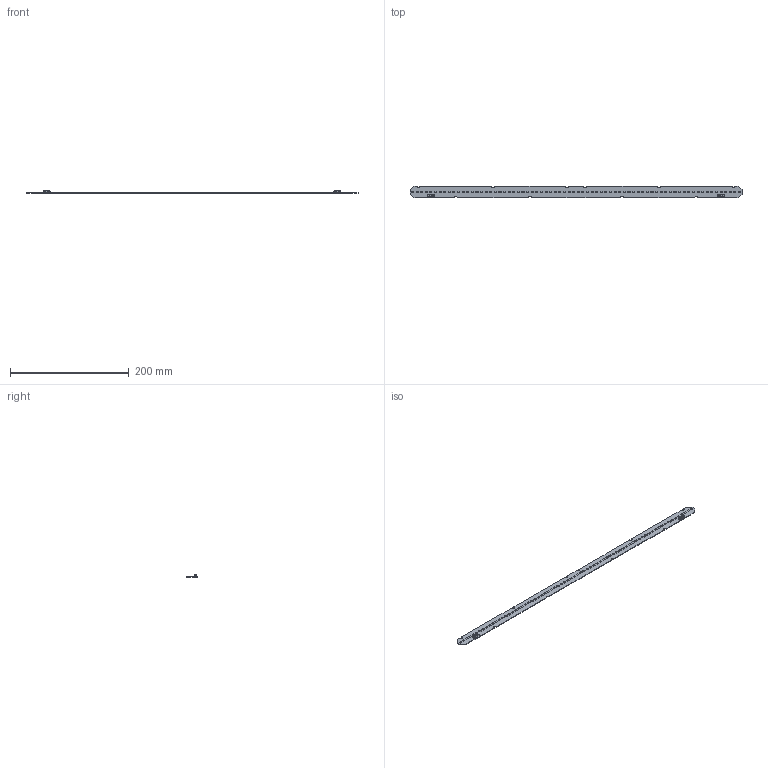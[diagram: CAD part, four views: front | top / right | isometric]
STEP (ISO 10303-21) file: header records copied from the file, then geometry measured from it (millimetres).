
FILE_DESCRIPTION(/* description */ ('Unknown'),/* implementation_level */ '2;1');
FILE_NAME(/* name */ 'LinLED 1100lm per 1ft 2C 560x20',/* time_stamp */ '2023-05-11T11:41:36+02:00',/* author */ ('Unknown'),/* organization */ ('Unknown'),/* preprocessor_version */ 'ST-DEVELOPER v18.102',/* originating_system */ 'Solid Edge',/* authorisation */ 'Unknown');
FILE_SCHEMA (('AUTOMOTIVE_DESIGN {1 0 10303 214 3 1 1}'));
Products named in the file (1): LinLED 1100lm per 1ft 2C 560x20
Bounding box: 559.6 x 20 x 4.45 mm (x, y, z)
Volume: 11660.4 mm3; surface area: 24197.7 mm2
Topology: 1 solids, 1 shells, 1718 faces, 4510 edges, 2938 vertices
Faces by surface type: plane 1398, cylinder 164, torus 64, cone 50, bspline 26, sphere 16
Entity records: 65070 total; most frequent: CARTESIAN_POINT 11393, ORIENTED_EDGE 8972, DIRECTION 7764, EDGE_CURVE 4486, LINE 3810, VECTOR 3810, VERTEX_POINT 2932, AXIS2_PLACEMENT_3D 1977
